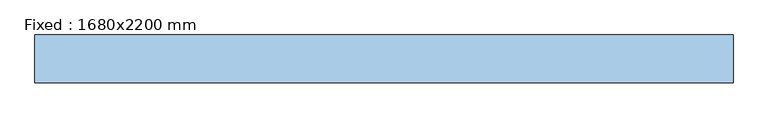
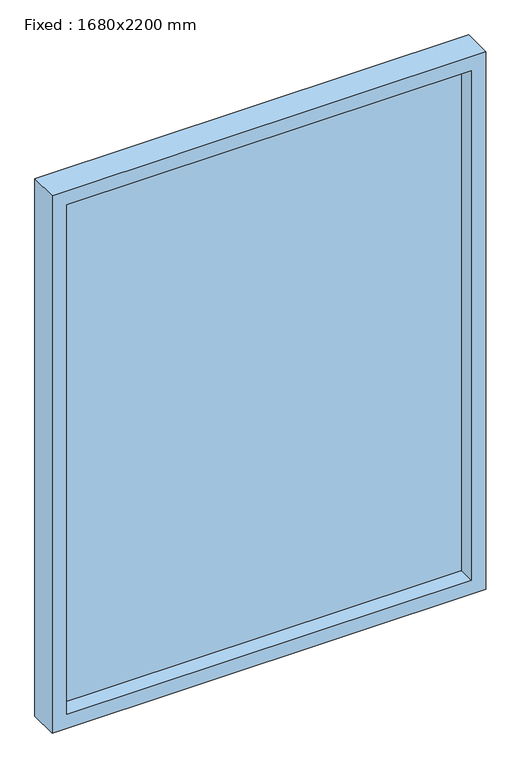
"""IFC4 building model written with IfcOpenShell, lengths in millimetres: window geometry, Fixed : 1680x2200 mm."""

from ifc_helpers import new_model, si_unit, frame, origin, place, context, project, spatial, polyline, outline, extrude, source, transform, mapped, element, save


def fixed_1680x2200_mm_e3bfc0e5(model_context):
    return source(origin(), model_context, "Body", "SweptSolid", [
        extrude(outline(polyline([(3000.0, 840.0), (3000.0, -840.0), (800.0, -840.0), (800.0, 840.0), (3000.0, 840.0)]), holes=[polyline([(857.0, 783.0), (857.0, -783.0), (2943.0, -783.0), (2943.0, 783.0), (857.0, 783.0)])]), frame((0.0, 75.0, 0.0), z_axis=(0.0, 1.0, 0.0), x_axis=(0.0, 0.0, 1.0)), (0.0, 0.0, 1.0), 115.0),
        extrude(outline(polyline([(-783.0, 168.0), (783.0, 168.0), (783.0, 140.0), (-783.0, 140.0), (-783.0, 168.0)])), frame((0.0, 0.0, 857.0), z_axis=(0.0, 0.0, 1.0), x_axis=(1.0, 0.0, 0.0)), (0.0, 0.0, 1.0), 2086.0),
    ])


if __name__ == "__main__":
    model = new_model("IFC4")
    model_context = context("Model", 3, world=origin())
    ifc_project = project(units=[si_unit("LENGTHUNIT", "METRE", prefix="MILLI")], contexts=[model_context])
    site = spatial("IfcSite", under=ifc_project)
    building = spatial("IfcBuilding", under=site)
    placement = place(None, origin())
    fixed_1680x2200_mm_shape = fixed_1680x2200_mm_e3bfc0e5(model_context)
    element("IfcWindow", 1, ObjectType="Fixed : 1680x2200 mm", at=placement, inside=building, context=model_context, shape_type="MappedRepresentation", body=[
        mapped(fixed_1680x2200_mm_shape, transform((0.0, 0.0, 0.0), x_axis=(1.0, 0.0, 0.0), y_axis=(0.0, 1.0, 0.0), z_axis=(0.0, 0.0, 1.0))),
    ])
    save(model, "model.ifc")
